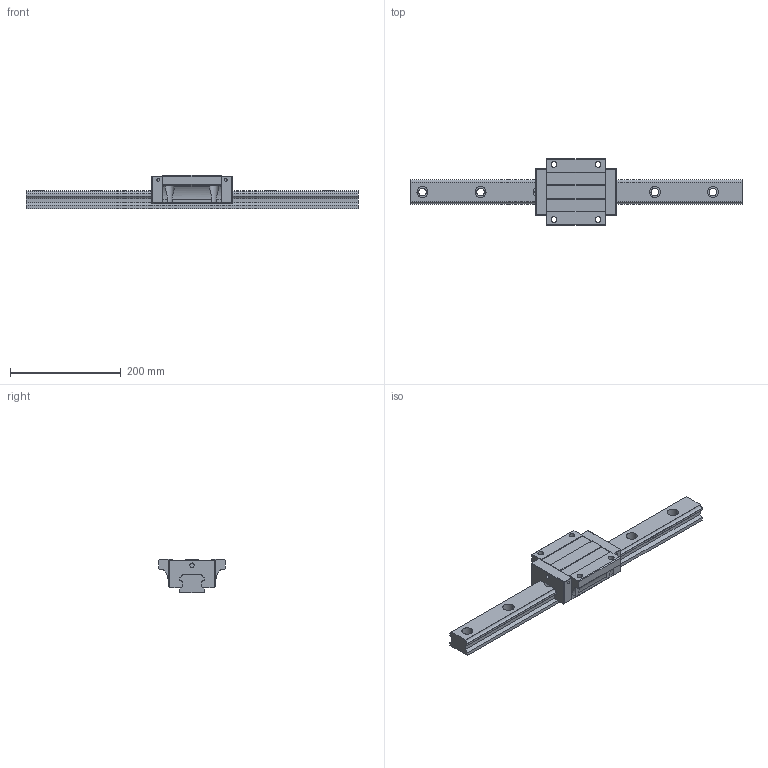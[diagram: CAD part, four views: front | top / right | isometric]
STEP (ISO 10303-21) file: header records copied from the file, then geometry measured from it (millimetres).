
FILE_DESCRIPTION (( 'STEP AP203' ), '1' );
FILE_NAME ('TRH45FL-SU.STEP', '2024-06-26T05:35:43', ( '' ), ( '' ), 'SwSTEP 2.0', 'SolidWorks 2022', '' );
FILE_SCHEMA (( 'CONFIG_CONTROL_DESIGN' ));
Length unit declared in the file: millimetre
Products named in the file (1): TRH45FL-SU
Bounding box: 600 x 120 x 60 mm (x, y, z)
Volume: 1250447.5 mm3; surface area: 171409.6 mm2
Topology: 2 solids, 2 shells, 214 faces, 582 edges, 380 vertices
Faces by surface type: cylinder 114, plane 96, sphere 4
Entity records: 7375 total; most frequent: CARTESIAN_POINT 1755, DIRECTION 1172, ORIENTED_EDGE 1156, EDGE_CURVE 578, AXIS2_PLACEMENT_3D 411, VERTEX_POINT 380, LINE 350, VECTOR 350
